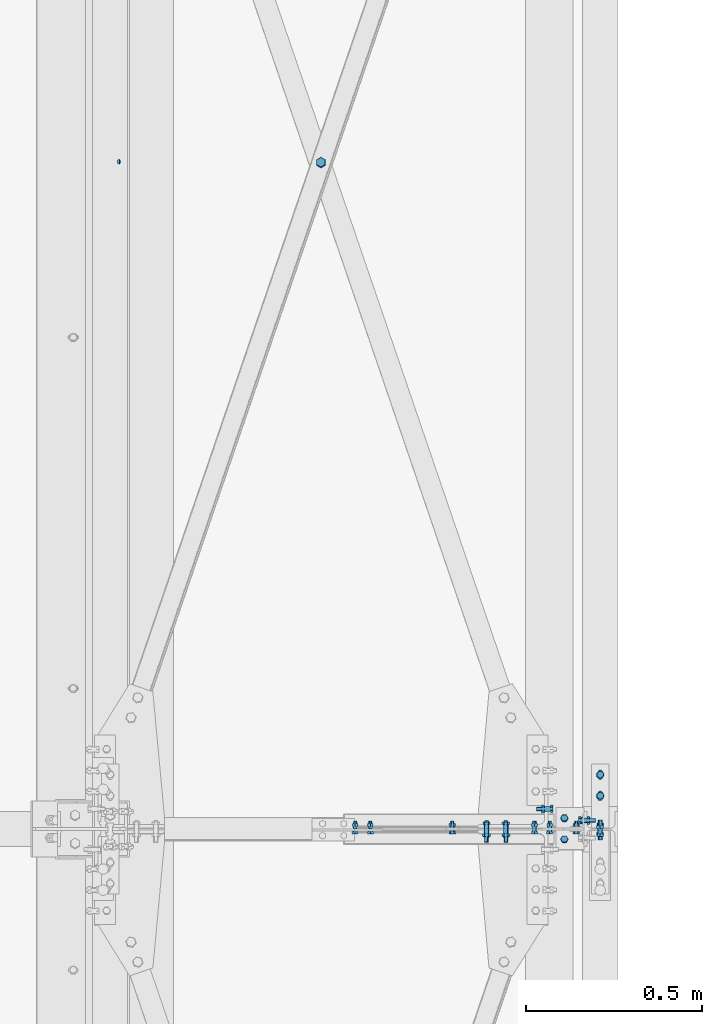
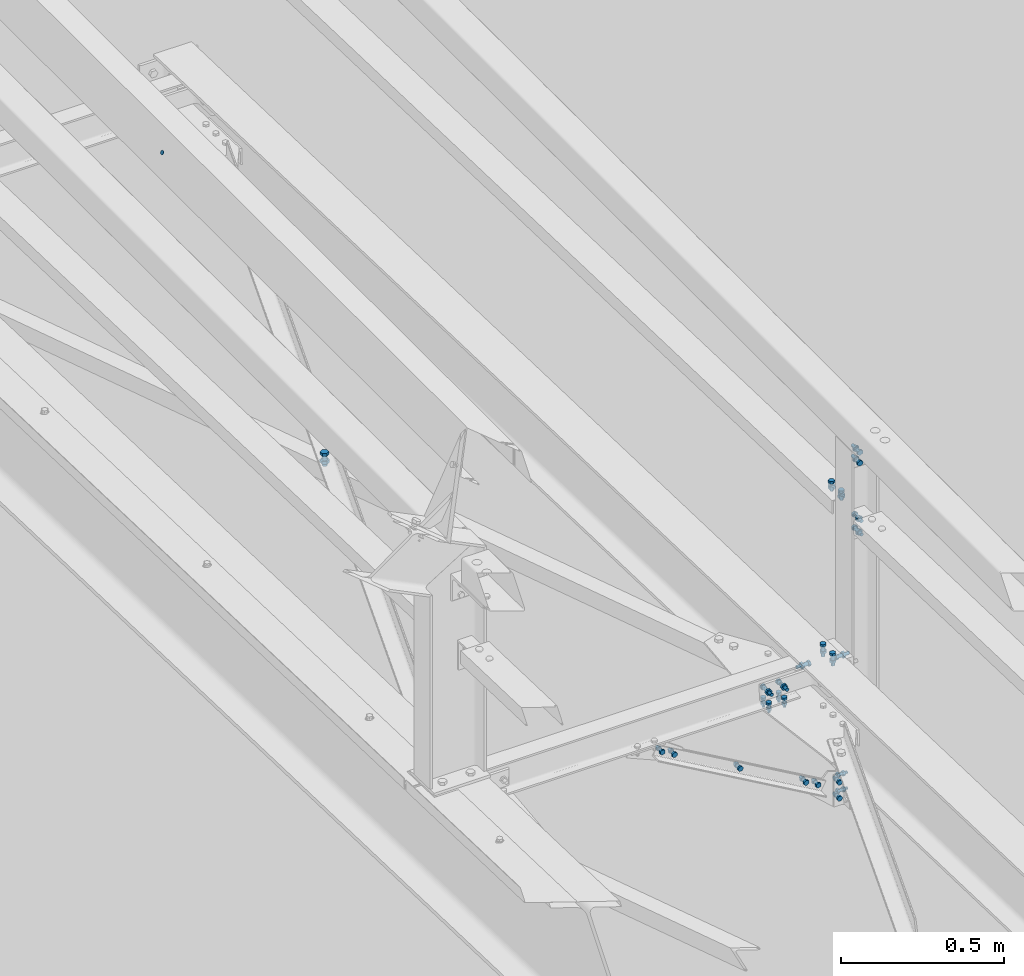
# One storey, part 335 of 362: 15 mechanical fasteners.
"""IFC2X3 building model written with IfcOpenShell, lengths in millimetres."""

from ifc_helpers import new_model, si_unit, frame, frame_2d, origin_with_axes, origin_2d_with_axis, place, context, subcontext, project, spatial, polyline, circle_curve, parameter, trimmed, segment, composite_curve, circle, outline, extrude, source, transform, mapped, material, type_object, element, save


model = new_model("IFC2X3")

# Units and contexts
model_context = context("Model", 3, precision=1e-05, world=origin_with_axes())
body_context = subcontext(model_context, "Body", "Model", "MODEL_VIEW")
ifc_project = project(units=[si_unit("LENGTHUNIT", "METRE", prefix="MILLI"), si_unit("AREAUNIT", "SQUARE_METRE"), si_unit("VOLUMEUNIT", "CUBIC_METRE"), si_unit("MASSUNIT", "GRAM", prefix="KILO"), si_unit("TIMEUNIT", "SECOND"), si_unit("PLANEANGLEUNIT", "RADIAN"), si_unit("SOLIDANGLEUNIT", "STERADIAN"), si_unit("THERMODYNAMICTEMPERATUREUNIT", "DEGREE_CELSIUS"), si_unit("LUMINOUSINTENSITYUNIT", "LUMEN")], contexts=[model_context])

# Site, building, storey
site_placement = place(None, origin_with_axes())
site = spatial("IfcSite", under=ifc_project, at=site_placement, Name="Undefined", CompositionType="ELEMENT")
building_placement = place(site_placement, origin_with_axes())
building = spatial("IfcBuilding", under=site, at=building_placement, Name="Undefined", CompositionType="ELEMENT")
storey_placement = place(building_placement, origin_with_axes())
storey = spatial("IfcBuildingStorey", under=building, at=storey_placement, Name="Undefined", CompositionType="ELEMENT", Elevation=0.0)

# Mechanical fasteners
ifc_material_1 = material(Name="6.8")
mechanical_fastener_type = type_object("IfcMechanicalFastenerType", Name="Bolt assembly")
shared_shape_1 = source(origin_with_axes(), body_context, "Body", "SweptSolid", [
    extrude(circle(Radius=7.0, at=origin_2d_with_axis()), frame((0.0, 0.0, 0.0), z_axis=(0.0, 1.0, 0.0), x_axis=(1.0, 0.0, 0.0)), (0.0, 0.0, 1.0), 3.1),
])
mechanical_fastener_1_placement = place(storey_placement, frame((38403.4787428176, 13300.0000408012, 8852.76597264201), z_axis=(0.0, -1.0, 0.0), x_axis=(-0.441220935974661, 0.0, -0.89739850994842)))
element("IfcMechanicalFastener", 1, at=mechanical_fastener_1_placement, inside=storey, type_object=mechanical_fastener_type, material=ifc_material_1, Name="Bolt assembly", NominalDiameter=12.0, NominalLength=3.0, context=body_context, shape_type="MappedRepresentation", body=[
    mapped(shared_shape_1, transform((0.0, 0.0, 0.0))),
])
shared_shape_2 = source(origin_with_axes(), body_context, "Body", "SweptSolid", [
    extrude(circle(Radius=6.0, at=origin_2d_with_axis()), frame((0.0, -6.9, 0.0), z_axis=(0.0, 1.0, 0.0), x_axis=(1.0, 0.0, 0.0)), (0.0, 0.0, 1.0), 4.0),
    extrude(circle(Radius=6.0, at=origin_2d_with_axis()), frame((0.0, 2.90000527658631, 0.0), z_axis=(0.0, 1.0, 0.0), x_axis=(1.0, 0.0, 0.0)), (0.0, 0.0, 1.0), 4.1),
    extrude(circle(Radius=6.0, at=origin_2d_with_axis()), frame((0.0, -2.99999932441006, 0.0), z_axis=(0.0, 1.0, 0.0), x_axis=(1.0, 0.0, 0.0)), (0.0, 0.0, 1.0), 6.0),
    extrude(outline(polyline([(9.81495457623, 0.0), (4.907477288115, 8.5000000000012), (-4.907477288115, 8.5000000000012), (-9.81495457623, 0.0), (-4.907477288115, -8.5000000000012), (4.907477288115, -8.5000000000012), (9.81495457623, 0.0)])), frame((0.0, -14.5000000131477, 0.0), z_axis=(0.0, 1.0, 0.0), x_axis=(1.0, 0.0, 0.0)), (0.0, 0.0, 1.0), 7.5),
    extrude(circle(Radius=5.0, at=origin_2d_with_axis()), frame((0.0, -7.0, 0.0), z_axis=(0.0, 1.0, 0.0), x_axis=(1.0, 0.0, 0.0)), (0.0, 0.0, 1.0), 30.0),
    extrude(outline(polyline([(9.23760430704, 0.0), (4.61880215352, 8.00000000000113), (-4.61880215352, 8.00000000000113), (-9.23760430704, 0.0), (-4.61880215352, -8.00000000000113), (4.61880215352, -8.00000000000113), (9.23760430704, 0.0)])), frame((0.0, 7.0, 0.0), z_axis=(0.0, 1.0, 0.0), x_axis=(1.0, 0.0, 0.0)), (0.0, 0.0, 1.0), 8.4),
])
mechanical_fastener_2_placement = place(storey_placement, frame((39354.3604524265, 11400.0003840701, 7365.22954232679), z_axis=(-0.867094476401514, 0.0, 0.498143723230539), x_axis=(0.49814372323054, 0.0, 0.867094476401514)))
element("IfcMechanicalFastener", 2, at=mechanical_fastener_2_placement, inside=storey, type_object=mechanical_fastener_type, material=ifc_material_1, Name="Bolt assembly", NominalDiameter=10.0, NominalLength=30.0, context=body_context, shape_type="MappedRepresentation", body=[
    mapped(shared_shape_2, transform((0.0, 0.0, 0.0))),
])
mechanical_fastener_3_placement = place(storey_placement, frame((39707.0000003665, 11399.9999999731, 7160.00000925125), z_axis=(0.0, 0.0, 1.0), x_axis=(1.0, 0.0, 0.0)))
element("IfcMechanicalFastener", 3, at=mechanical_fastener_3_placement, inside=storey, type_object=mechanical_fastener_type, material=ifc_material_1, Name="Bolt assembly", NominalDiameter=10.0, NominalLength=30.0, context=body_context, shape_type="MappedRepresentation", body=[
    mapped(shared_shape_2, transform((0.0, 0.0, -30.0))),
    mapped(shared_shape_2, transform((0.0, 0.0, 30.0))),
])
ifc_material_2 = material(Name="8.8-SB-ZINGUE")
shared_shape_3 = source(origin_with_axes(), body_context, "Body", "SweptSolid", [
    extrude(circle(Radius=7.0, at=origin_2d_with_axis()), frame((0.0, -2.60005959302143, 0.0), z_axis=(0.0, 1.0, 0.0), x_axis=(1.0, 0.0, 0.0)), (0.0, 0.0, 1.0), 5.1),
    extrude(circle(Radius=7.0, at=origin_2d_with_axis()), frame((0.0, -13.4001048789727, 0.0), z_axis=(0.0, 1.0, 0.0), x_axis=(1.0, 0.0, 0.0)), (0.0, 0.0, 1.0), 10.0),
    extrude(outline(polyline([(10.39230484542, 0.0), (5.19615242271, 9.00000000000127), (-5.19615242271, 9.00000000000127), (-10.39230484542, 0.0), (-5.19615242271, -9.00000000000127), (5.19615242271, -9.00000000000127), (10.39230484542, 0.0)])), frame((0.0, -21.4201048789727, 0.0), z_axis=(0.0, 1.0, 0.0), x_axis=(1.0, 0.0, 0.0)), (0.0, 0.0, 1.0), 7.92),
    extrude(circle(Radius=6.0, at=origin_2d_with_axis()), frame((0.0, -13.5000574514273, 0.0), z_axis=(0.0, 1.0, 0.0), x_axis=(1.0, 0.0, 0.0)), (0.0, 0.0, 1.0), 40.0),
    extrude(outline(polyline([(11.5008173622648, 0.0), (5.7504086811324, 9.96000000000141), (-5.7504086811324, 9.96000000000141), (-11.5008173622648, 0.0), (-5.7504086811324, -9.96000000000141), (5.7504086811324, -9.96000000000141), (11.5008173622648, 0.0)])), frame((0.0, 2.49994040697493, 0.0), z_axis=(0.0, 1.0, 0.0), x_axis=(1.0, 0.0, 0.0)), (0.0, 0.0, 1.0), 7.92),
])
mechanical_fastener_4_placement = place(storey_placement, frame((39775.0, 11400.000104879, 8370.0), z_axis=(-1.0, 0.0, 0.0), x_axis=(0.0, 0.0, 1.0)))
element("IfcMechanicalFastener", 4, at=mechanical_fastener_4_placement, inside=storey, type_object=mechanical_fastener_type, material=ifc_material_2, Name="Bolt assembly", NominalDiameter=12.0, NominalLength=40.0, context=body_context, shape_type="MappedRepresentation", body=[
    mapped(shared_shape_3, transform((0.0, 0.0, 0.0))),
    mapped(shared_shape_3, transform((40.0, 0.0, 0.0))),
])
shared_shape_4 = source(origin_with_axes(), body_context, "Body", "SweptSolid", [
    extrude(circle(Radius=7.0, at=origin_2d_with_axis()), frame((0.0, -3.88936717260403, 0.0), z_axis=(0.0, 1.0, 0.0), x_axis=(1.0, 0.0, 0.0)), (0.0, 0.0, 1.0), 4.0),
    extrude(outline(composite_curve([segment(polyline([(-7.0, 7.0), (7.0, 7.0)]), True, "CONTINUOUS"), segment(trimmed(circle_curve(frame_2d((7.0, 0.0), x_axis=(0.0, 1.0)), 7.0), [parameter(0.0)], [parameter(3.14159265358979)], False, "PARAMETER"), True, "CONTINUOUS"), segment(polyline([(7.0, -7.0), (-7.0, -7.0)]), True, "CONTINUOUS"), segment(trimmed(circle_curve(frame_2d((-7.0, 0.0), x_axis=(0.0, -1.0)), 7.0), [parameter(0.0)], [parameter(3.14159265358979)], False, "PARAMETER"), True, "DISCONTINUOUS")], self_intersect=False)), frame((0.0, -0.100011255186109, 0.0), z_axis=(0.0, 1.0, 0.0), x_axis=(1.0, 0.0, 0.0)), (0.0, 0.0, 1.0), 6.1),
    extrude(outline(polyline([(10.39230484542, 0.0), (5.19615242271, 9.00000000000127), (-5.19615242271, 9.00000000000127), (-10.39230484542, 0.0), (-5.19615242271, -9.00000000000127), (5.19615242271, -9.00000000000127), (10.39230484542, 0.0)])), frame((0.0, -11.909367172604, 0.0), z_axis=(0.0, 1.0, 0.0), x_axis=(1.0, 0.0, 0.0)), (0.0, 0.0, 1.0), 7.92),
    extrude(circle(Radius=6.0, at=origin_2d_with_axis()), frame((0.0, -3.98936717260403, 0.0), z_axis=(0.0, 1.0, 0.0), x_axis=(1.0, 0.0, 0.0)), (0.0, 0.0, 1.0), 30.0),
    extrude(circle(Radius=10.8, at=origin_2d_with_axis()), frame((0.0, 6.0, 0.0), z_axis=(0.0, 1.0, 0.0), x_axis=(1.0, 0.0, 0.0)), (0.0, 0.0, 1.0), 3.96),
    extrude(outline(polyline([(11.5008173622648, 0.0), (5.7504086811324, 9.96000000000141), (-5.7504086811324, 9.96000000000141), (-11.5008173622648, 0.0), (-5.7504086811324, -9.96000000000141), (5.7504086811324, -9.96000000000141), (11.5008173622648, 0.0)])), frame((0.0, 9.9600084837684, 0.0), z_axis=(0.0, 1.0, 0.0), x_axis=(1.0, 0.0, 0.0)), (0.0, 0.0, 1.0), 7.92),
])
mechanical_fastener_5_placement = place(storey_placement, frame((39775.0, 11554.9555719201, 8188.12886622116), z_axis=(1.0, 0.0, 0.0), x_axis=(0.0, -0.999506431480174, 0.0314148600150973)))
element("IfcMechanicalFastener", 5, at=mechanical_fastener_5_placement, inside=storey, type_object=mechanical_fastener_type, material=ifc_material_2, Name="Bolt assembly", NominalDiameter=12.0, NominalLength=30.0, context=body_context, shape_type="MappedRepresentation", body=[
    mapped(shared_shape_4, transform((0.0, 0.0, 0.0))),
    mapped(shared_shape_4, transform((60.0, 0.0, 0.0))),
])
shared_shape_5 = source(origin_with_axes(), body_context, "Body", "SweptSolid", [
    extrude(circle(Radius=7.0, at=origin_2d_with_axis()), frame((0.0, -2.5, 0.0), z_axis=(0.0, 1.0, 0.0), x_axis=(1.0, 0.0, 0.0)), (0.0, 0.0, 1.0), 5.0),
    extrude(circle(Radius=7.0, at=origin_2d_with_axis()), frame((0.0, 3.40000111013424, 0.0), z_axis=(0.0, 1.0, 0.0), x_axis=(1.0, 0.0, 0.0)), (0.0, 0.0, 1.0), 6.1),
    extrude(circle(Radius=7.0, at=origin_2d_with_axis()), frame((0.0, -9.40000000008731, 0.0), z_axis=(0.0, 1.0, 0.0), x_axis=(1.0, 0.0, 0.0)), (0.0, 0.0, 1.0), 6.0),
    extrude(outline(polyline([(10.39230484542, 0.0), (5.19615242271, 9.00000000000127), (-5.19615242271, 9.00000000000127), (-10.39230484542, 0.0), (-5.19615242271, -9.00000000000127), (5.19615242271, -9.00000000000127), (10.39230484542, 0.0)])), frame((0.0, -17.4200000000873, 0.0), z_axis=(0.0, 1.0, 0.0), x_axis=(1.0, 0.0, 0.0)), (0.0, 0.0, 1.0), 7.92),
    extrude(circle(Radius=6.0, at=origin_2d_with_axis()), frame((0.0, -9.50000000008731, 0.0), z_axis=(0.0, 1.0, 0.0), x_axis=(1.0, 0.0, 0.0)), (0.0, 0.0, 1.0), 40.0),
    extrude(outline(polyline([(11.5008173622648, 0.0), (5.7504086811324, 9.96000000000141), (-5.7504086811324, 9.96000000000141), (-11.5008173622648, 0.0), (-5.7504086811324, -9.96000000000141), (5.7504086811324, -9.96000000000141), (11.5008173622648, 0.0)])), frame((0.0, 9.50000815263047, 0.0), z_axis=(0.0, 1.0, 0.0), x_axis=(1.0, 0.0, 0.0)), (0.0, 0.0, 1.0), 7.92),
])
mechanical_fastener_6_placement = place(storey_placement, frame((39775.0000000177, 11400.0, 8107.99910819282), z_axis=(1.0, 0.0, 0.0), x_axis=(0.0, 0.0, 1.0)))
element("IfcMechanicalFastener", 6, at=mechanical_fastener_6_placement, inside=storey, type_object=mechanical_fastener_type, material=ifc_material_2, Name="Bolt assembly", NominalDiameter=12.0, NominalLength=40.0, context=body_context, shape_type="MappedRepresentation", body=[
    mapped(shared_shape_5, transform((0.0, 0.0, 0.0))),
    mapped(shared_shape_5, transform((49.9999999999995, 0.0, -3.63797880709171e-12))),
])
shared_shape_6 = source(origin_with_axes(), body_context, "Body", "SweptSolid", [
    extrude(circle(Radius=6.0, at=origin_2d_with_axis()), frame((0.0, 2.90038411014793, 0.0), z_axis=(0.0, 1.0, 0.0), x_axis=(1.0, 0.0, 0.0)), (0.0, 0.0, 1.0), 4.1),
    extrude(circle(Radius=6.0, at=origin_2d_with_axis()), frame((0.0, -6.89961591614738, 0.0), z_axis=(0.0, 1.0, 0.0), x_axis=(1.0, 0.0, 0.0)), (0.0, 0.0, 1.0), 4.0),
    extrude(circle(Radius=6.0, at=origin_2d_with_axis()), frame((0.0, -4.88000000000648, 0.0), z_axis=(0.0, 1.0, 0.0), x_axis=(1.0, 0.0, 0.0)), (0.0, 0.0, 1.0), 6.0),
    extrude(outline(polyline([(9.81495457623, 0.0), (4.907477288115, 8.5000000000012), (-4.907477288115, 8.5000000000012), (-9.81495457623, 0.0), (-4.907477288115, -8.5000000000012), (4.907477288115, -8.5000000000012), (9.81495457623, 0.0)])), frame((0.0, -14.4996159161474, 0.0), z_axis=(0.0, 1.0, 0.0), x_axis=(1.0, 0.0, 0.0)), (0.0, 0.0, 1.0), 7.5),
    extrude(circle(Radius=5.0, at=origin_2d_with_axis()), frame((0.0, -6.99961591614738, 0.0), z_axis=(0.0, 1.0, 0.0), x_axis=(1.0, 0.0, 0.0)), (0.0, 0.0, 1.0), 30.0),
    extrude(outline(polyline([(9.23760430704, 0.0), (4.61880215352, 8.00000000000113), (-4.61880215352, 8.00000000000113), (-9.23760430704, 0.0), (-4.61880215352, -8.00000000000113), (4.61880215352, -8.00000000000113), (9.23760430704, 0.0)])), frame((0.0, 7.00036854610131, 0.0), z_axis=(0.0, 1.0, 0.0), x_axis=(1.0, 0.0, 0.0)), (0.0, 0.0, 1.0), 8.4),
])
mechanical_fastener_7_placement = place(storey_placement, frame((39077.3739751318, 11399.9999999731, 7524.35761739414), z_axis=(0.49814372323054, 0.0, 0.867094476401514), x_axis=(0.867094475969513, 0.0, -0.498143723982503)))
element("IfcMechanicalFastener", 7, at=mechanical_fastener_7_placement, inside=storey, type_object=mechanical_fastener_type, material=ifc_material_1, Name="Bolt assembly", NominalDiameter=10.0, NominalLength=30.0, context=body_context, shape_type="MappedRepresentation", body=[
    mapped(shared_shape_6, transform((0.0, 0.0, 0.0))),
    mapped(shared_shape_6, transform((49.9999999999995, 0.0, -3.63797880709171e-12))),
])
shared_shape_7 = source(origin_with_axes(), body_context, "Body", "SweptSolid", [
    extrude(circle(Radius=6.0, at=origin_2d_with_axis()), frame((0.0, -6.89961591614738, 0.0), z_axis=(0.0, 1.0, 0.0), x_axis=(1.0, 0.0, 0.0)), (0.0, 0.0, 1.0), 4.0),
    extrude(circle(Radius=6.0, at=origin_2d_with_axis()), frame((0.0, 2.90038411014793, 0.0), z_axis=(0.0, 1.0, 0.0), x_axis=(1.0, 0.0, 0.0)), (0.0, 0.0, 1.0), 4.1),
    extrude(circle(Radius=6.0, at=origin_2d_with_axis()), frame((0.0, -2.99999932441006, 0.0), z_axis=(0.0, 1.0, 0.0), x_axis=(1.0, 0.0, 0.0)), (0.0, 0.0, 1.0), 6.0),
    extrude(outline(polyline([(9.81495457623, 0.0), (4.907477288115, 8.5000000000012), (-4.907477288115, 8.5000000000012), (-9.81495457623, 0.0), (-4.907477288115, -8.5000000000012), (4.907477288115, -8.5000000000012), (9.81495457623, 0.0)])), frame((0.0, -14.4996159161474, 0.0), z_axis=(0.0, 1.0, 0.0), x_axis=(1.0, 0.0, 0.0)), (0.0, 0.0, 1.0), 7.5),
    extrude(circle(Radius=5.0, at=origin_2d_with_axis()), frame((0.0, -6.99961591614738, 0.0), z_axis=(0.0, 1.0, 0.0), x_axis=(1.0, 0.0, 0.0)), (0.0, 0.0, 1.0), 30.0),
    extrude(outline(polyline([(9.23760430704, 0.0), (4.61880215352, 8.00000000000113), (-4.61880215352, 8.00000000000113), (-9.23760430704, 0.0), (-4.61880215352, -8.00000000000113), (4.61880215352, -8.00000000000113), (9.23760430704, 0.0)])), frame((0.0, 7.00036854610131, 0.0), z_axis=(0.0, 1.0, 0.0), x_axis=(1.0, 0.0, 0.0)), (0.0, 0.0, 1.0), 8.4),
])
mechanical_fastener_8_placement = place(storey_placement, frame((39631.3469296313, 11399.9999999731, 7206.10146710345), z_axis=(-0.498143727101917, 0.0, -0.867094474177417), x_axis=(-0.867094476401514, 0.0, 0.498143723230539)))
element("IfcMechanicalFastener", 8, at=mechanical_fastener_8_placement, inside=storey, type_object=mechanical_fastener_type, material=ifc_material_1, Name="Bolt assembly", NominalDiameter=10.0, NominalLength=30.0, context=body_context, shape_type="MappedRepresentation", body=[
    mapped(shared_shape_7, transform((0.0, 0.0, 0.0))),
    mapped(shared_shape_7, transform((49.9999999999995, 0.0, -3.63797880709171e-12))),
])
shared_shape_8 = source(origin_with_axes(), body_context, "Body", "SweptSolid", [
    extrude(circle(Radius=6.0, at=origin_2d_with_axis()), frame((0.0, -0.100011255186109, 0.0), z_axis=(0.0, 1.0, 0.0), x_axis=(1.0, 0.0, 0.0)), (0.0, 0.0, 1.0), 8.1),
    extrude(circle(Radius=6.0, at=origin_2d_with_axis()), frame((0.0, -3.89999843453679, 0.0), z_axis=(0.0, 1.0, 0.0), x_axis=(1.0, 0.0, 0.0)), (0.0, 0.0, 1.0), 4.0),
    extrude(outline(polyline([(9.81495457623, 0.0), (4.907477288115, 8.5000000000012), (-4.907477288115, 8.5000000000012), (-9.81495457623, 0.0), (-4.907477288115, -8.5000000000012), (4.907477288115, -8.5000000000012), (9.81495457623, 0.0)])), frame((0.0, -11.5, 0.0), z_axis=(0.0, 1.0, 0.0), x_axis=(1.0, 0.0, 0.0)), (0.0, 0.0, 1.0), 7.5),
    extrude(circle(Radius=5.0, at=origin_2d_with_axis()), frame((0.0, -3.99999923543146, 0.0), z_axis=(0.0, 1.0, 0.0), x_axis=(1.0, 0.0, 0.0)), (0.0, 0.0, 1.0), 30.0),
    extrude(outline(polyline([(9.23760430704, 0.0), (4.61880215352, 8.00000000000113), (-4.61880215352, 8.00000000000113), (-9.23760430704, 0.0), (-4.61880215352, -8.00000000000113), (4.61880215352, -8.00000000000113), (9.23760430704, 0.0)])), frame((0.0, 8.00000527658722, 0.0), z_axis=(0.0, 1.0, 0.0), x_axis=(1.0, 0.0, 0.0)), (0.0, 0.0, 1.0), 8.4),
])
mechanical_fastener_9_placement = place(storey_placement, frame((39729.0000003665, 11424.9999999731, 7160.00000925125), z_axis=(0.0, 0.0, 1.0), x_axis=(0.0, -1.0, 0.0)))
element("IfcMechanicalFastener", 9, at=mechanical_fastener_9_placement, inside=storey, type_object=mechanical_fastener_type, material=ifc_material_1, Name="Bolt assembly", NominalDiameter=10.0, NominalLength=30.0, context=body_context, shape_type="MappedRepresentation", body=[
    mapped(shared_shape_8, transform((0.0, 0.0, -30.0))),
    mapped(shared_shape_8, transform((0.0, 0.0, 30.0))),
])
ifc_material_3 = material(Name="#_SB-8.8-ZINGUE")
shared_shape_9 = source(origin_with_axes(), body_context, "Body", "SweptSolid", [
    extrude(circle(Radius=7.0, at=origin_2d_with_axis()), frame((0.0, -10.0999860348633, 0.0), z_axis=(0.0, 1.0, 0.0), x_axis=(1.0, 0.0, 0.0)), (0.0, 0.0, 1.0), 10.2),
    extrude(circle(Radius=7.0, at=origin_2d_with_axis()), frame((0.0, -0.100011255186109, 0.0), z_axis=(0.0, 1.0, 0.0), x_axis=(1.0, 0.0, 0.0)), (0.0, 0.0, 1.0), 8.1),
    extrude(outline(polyline([(10.39230484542, 0.0), (5.19615242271, 9.00000000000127), (-5.19615242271, 9.00000000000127), (-10.39230484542, 0.0), (-5.19615242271, -9.00000000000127), (5.19615242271, -9.00000000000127), (10.39230484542, 0.0)])), frame((0.0, -18.1199860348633, 0.0), z_axis=(0.0, 1.0, 0.0), x_axis=(1.0, 0.0, 0.0)), (0.0, 0.0, 1.0), 7.92),
    extrude(circle(Radius=6.0, at=origin_2d_with_axis()), frame((0.0, -10.1999860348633, 0.0), z_axis=(0.0, 1.0, 0.0), x_axis=(1.0, 0.0, 0.0)), (0.0, 0.0, 1.0), 40.0),
    extrude(outline(polyline([(11.5008173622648, 0.0), (5.7504086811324, 9.96000000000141), (-5.7504086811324, 9.96000000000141), (-11.5008173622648, 0.0), (-5.7504086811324, -9.96000000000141), (5.7504086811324, -9.96000000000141), (11.5008173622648, 0.0)])), frame((0.0, 8.00000527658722, 0.0), z_axis=(0.0, 1.0, 0.0), x_axis=(1.0, 0.0, 0.0)), (0.0, 0.0, 1.0), 7.92),
])
mechanical_fastener_10_placement = place(storey_placement, frame((39673.0, 11401.4134841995, 7681.49111195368), z_axis=(3.14103090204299e-11, 0.999506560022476, -0.0314107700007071), x_axis=(1.0, 0.0, 0.0)))
element("IfcMechanicalFastener", 10, at=mechanical_fastener_10_placement, inside=storey, type_object=mechanical_fastener_type, material=ifc_material_3, Name="Bolt assembly", NominalDiameter=12.0, NominalLength=40.0, context=body_context, shape_type="MappedRepresentation", body=[
    mapped(shared_shape_9, transform((0.0, 0.0, -30.0))),
    mapped(shared_shape_9, transform((0.0, 0.0, 30.0))),
])
shared_shape_10 = source(origin_with_axes(), body_context, "Body", "SweptSolid", [
    extrude(circle(Radius=7.0, at=origin_2d_with_axis()), frame((0.0, -0.100011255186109, 0.0), z_axis=(0.0, 1.0, 0.0), x_axis=(1.0, 0.0, 0.0)), (0.0, 0.0, 1.0), 8.1),
    extrude(circle(Radius=7.0, at=origin_2d_with_axis()), frame((0.0, -7.9, 0.0), z_axis=(0.0, 1.0, 0.0), x_axis=(1.0, 0.0, 0.0)), (0.0, 0.0, 1.0), 8.0),
    extrude(outline(polyline([(10.39230484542, 0.0), (5.19615242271, 9.00000000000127), (-5.19615242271, 9.00000000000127), (-10.39230484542, 0.0), (-5.19615242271, -9.00000000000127), (5.19615242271, -9.00000000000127), (10.39230484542, 0.0)])), frame((0.0, -15.92, 0.0), z_axis=(0.0, 1.0, 0.0), x_axis=(1.0, 0.0, 0.0)), (0.0, 0.0, 1.0), 7.92),
    extrude(circle(Radius=6.0, at=origin_2d_with_axis()), frame((0.0, -8.0, 0.0), z_axis=(0.0, 1.0, 0.0), x_axis=(1.0, 0.0, 0.0)), (0.0, 0.0, 1.0), 40.0),
    extrude(outline(polyline([(11.5008173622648, 0.0), (5.7504086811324, 9.96000000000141), (-5.7504086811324, 9.96000000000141), (-11.5008173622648, 0.0), (-5.7504086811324, -9.96000000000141), (5.7504086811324, -9.96000000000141), (11.5008173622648, 0.0)])), frame((0.0, 8.00000527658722, 0.0), z_axis=(0.0, 1.0, 0.0), x_axis=(1.0, 0.0, 0.0)), (0.0, 0.0, 1.0), 7.92),
])
mechanical_fastener_11_placement = place(storey_placement, frame((39729.0, 11425.0000000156, 7635.72766008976), z_axis=(-1.05403257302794e-09, -0.0314112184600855, -0.999506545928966), x_axis=(3.14103090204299e-11, 0.999506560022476, -0.0314107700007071)))
element("IfcMechanicalFastener", 11, at=mechanical_fastener_11_placement, inside=storey, type_object=mechanical_fastener_type, material=ifc_material_3, Name="Bolt assembly", NominalDiameter=12.0, NominalLength=40.0, context=body_context, shape_type="MappedRepresentation", body=[
    mapped(shared_shape_10, transform((0.0, 0.0, 0.0))),
])
shared_shape_11 = source(origin_with_axes(), body_context, "Body", "SweptSolid", [
    extrude(circle(Radius=9.0, at=origin_2d_with_axis()), frame((0.0, 2.90112971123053, 0.0), z_axis=(0.0, 1.0, 0.0), x_axis=(1.0, 0.0, 0.0)), (0.0, 0.0, 1.0), 6.1),
    extrude(circle(Radius=9.0, at=origin_2d_with_axis()), frame((0.0, -8.89881504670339, 0.0), z_axis=(0.0, 1.0, 0.0), x_axis=(1.0, 0.0, 0.0)), (0.0, 0.0, 1.0), 6.0),
    extrude(outline(polyline([(13.85640646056, 0.0), (6.92820323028, 12.0000000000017), (-6.92820323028, 12.0000000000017), (-13.85640646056, 0.0), (-6.92820323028, -12.0000000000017), (6.92820323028, -12.0000000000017), (13.85640646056, 0.0)])), frame((0.0, -19.5588150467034, 0.0), z_axis=(0.0, 1.0, 0.0), x_axis=(1.0, 0.0, 0.0)), (0.0, 0.0, 1.0), 10.56),
    extrude(circle(Radius=8.0, at=origin_2d_with_axis()), frame((0.0, -8.99881504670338, 0.0), z_axis=(0.0, 1.0, 0.0), x_axis=(1.0, 0.0, 0.0)), (0.0, 0.0, 1.0), 40.0),
    extrude(outline(polyline([(15.3344231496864, 0.0), (7.6672115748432, 13.2800000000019), (-7.6672115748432, 13.2800000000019), (-15.3344231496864, 0.0), (-7.6672115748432, -13.2800000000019), (7.6672115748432, -13.2800000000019), (15.3344231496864, 0.0)])), frame((0.0, 9.00112971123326, 0.0), z_axis=(0.0, 1.0, 0.0), x_axis=(1.0, 0.0, 0.0)), (0.0, 0.0, 1.0), 10.56),
])
mechanical_fastener_12_placement = place(storey_placement, frame((38980.0000151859, 13298.020066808, 7509.03216005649), z_axis=(-1.0, 0.0, 0.0), x_axis=(3.14103090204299e-11, 0.999506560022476, -0.0314107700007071)))
element("IfcMechanicalFastener", 12, at=mechanical_fastener_12_placement, inside=storey, type_object=mechanical_fastener_type, material=ifc_material_2, Name="Bolt assembly", NominalDiameter=16.0, NominalLength=40.0, context=body_context, shape_type="MappedRepresentation", body=[
    mapped(shared_shape_11, transform((0.0, 0.0, 0.0))),
])
shared_shape_12 = source(origin_with_axes(), body_context, "Body", "SweptSolid", [
    extrude(circle(Radius=6.0, at=origin_2d_with_axis()), frame((0.0, -6.19999893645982, 0.0), z_axis=(0.0, 1.0, 0.0), x_axis=(1.0, 0.0, 0.0)), (0.0, 0.0, 1.0), 6.3),
    extrude(circle(Radius=6.0, at=origin_2d_with_axis()), frame((0.0, -0.10007666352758, 0.0), z_axis=(0.0, 1.0, 0.0), x_axis=(1.0, 0.0, 0.0)), (0.0, 0.0, 1.0), 6.1),
    extrude(outline(polyline([(9.81495457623, 0.0), (4.907477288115, 8.5000000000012), (-4.907477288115, 8.5000000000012), (-9.81495457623, 0.0), (-4.907477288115, -8.5000000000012), (4.907477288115, -8.5000000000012), (9.81495457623, 0.0)])), frame((0.0, -13.7999989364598, 0.0), z_axis=(0.0, 1.0, 0.0), x_axis=(1.0, 0.0, 0.0)), (0.0, 0.0, 1.0), 7.5),
    extrude(circle(Radius=5.0, at=origin_2d_with_axis()), frame((0.0, -6.29999893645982, 0.0), z_axis=(0.0, 1.0, 0.0), x_axis=(1.0, 0.0, 0.0)), (0.0, 0.0, 1.0), 30.0),
    extrude(outline(polyline([(9.23760430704, 0.0), (4.61880215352, 8.00000000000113), (-4.61880215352, 8.00000000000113), (-9.23760430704, 0.0), (-4.61880215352, -8.00000000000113), (4.61880215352, -8.00000000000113), (9.23760430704, 0.0)])), frame((0.0, 6.0, 0.0), z_axis=(0.0, 1.0, 0.0), x_axis=(1.0, 0.0, 0.0)), (0.0, 0.0, 1.0), 8.4),
])
mechanical_fastener_13_placement = place(storey_placement, frame((39451.5000116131, 11398.1157730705, 7571.74048553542), z_axis=(3.14103090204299e-11, 0.999506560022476, -0.0314107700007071), x_axis=(1.0, 0.0, 0.0)))
element("IfcMechanicalFastener", 13, at=mechanical_fastener_13_placement, inside=storey, type_object=mechanical_fastener_type, material=ifc_material_1, Name="Bolt assembly", NominalDiameter=10.0, NominalLength=30.0, context=body_context, shape_type="MappedRepresentation", body=[
    mapped(shared_shape_12, transform((0.0, 3.18323145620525e-11, -16.9999999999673))),
    mapped(shared_shape_12, transform((55.0, 8.18545231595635e-12, -16.9999999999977))),
    mapped(shared_shape_12, transform((0.0, -3.18323145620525e-11, 16.9999999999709))),
    mapped(shared_shape_12, transform((55.0, -7.27595761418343e-12, 16.9999999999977))),
])
shared_shape_13 = source(origin_with_axes(), body_context, "Body", "SweptSolid", [
    extrude(circle(Radius=7.0, at=origin_2d_with_axis()), frame((0.0, -1.69999995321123, 0.0), z_axis=(0.0, 1.0, 0.0), x_axis=(1.0, 0.0, 0.0)), (0.0, 0.0, 1.0), 6.6),
    extrude(circle(Radius=7.0, at=origin_2d_with_axis()), frame((0.0, 4.9000000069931, 0.0), z_axis=(0.0, 1.0, 0.0), x_axis=(1.0, 0.0, 0.0)), (0.0, 0.0, 1.0), 10.1),
    extrude(outline(polyline([(10.39230484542, 0.0), (5.19615242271, 9.00000000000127), (-5.19615242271, 9.00000000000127), (-10.39230484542, 0.0), (-5.19615242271, -9.00000000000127), (5.19615242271, -9.00000000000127), (10.39230484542, 0.0)])), frame((0.0, -9.71999995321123, 0.0), z_axis=(0.0, 1.0, 0.0), x_axis=(1.0, 0.0, 0.0)), (0.0, 0.0, 1.0), 7.92),
    extrude(circle(Radius=6.0, at=origin_2d_with_axis()), frame((0.0, -1.79999995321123, 0.0), z_axis=(0.0, 1.0, 0.0), x_axis=(1.0, 0.0, 0.0)), (0.0, 0.0, 1.0), 40.0),
    extrude(outline(polyline([(11.5008173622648, 0.0), (5.7504086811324, 9.96000000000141), (-5.7504086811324, 9.96000000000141), (-11.5008173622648, 0.0), (-5.7504086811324, -9.96000000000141), (5.7504086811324, -9.96000000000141), (11.5008173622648, 0.0)])), frame((0.0, 15.0000000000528, 0.0), z_axis=(0.0, 1.0, 0.0), x_axis=(1.0, 0.0, 0.0)), (0.0, 0.0, 1.0), 7.92),
])
mechanical_fastener_14_placement = place(storey_placement, frame((39631.5, 11457.6581217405, 7619.89395022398), z_axis=(-1.05403257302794e-09, -0.0314112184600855, -0.999506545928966), x_axis=(0.0, -0.999506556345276, 0.031410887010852)))
element("IfcMechanicalFastener", 14, at=mechanical_fastener_14_placement, inside=storey, type_object=mechanical_fastener_type, material=ifc_material_2, Name="Bolt assembly", NominalDiameter=12.0, NominalLength=40.0, context=body_context, shape_type="MappedRepresentation", body=[
    mapped(shared_shape_13, transform((0.0, 0.0, 0.0))),
])
shared_shape_14 = source(origin_with_axes(), body_context, "Body", "SweptSolid", [
    extrude(circle(Radius=7.0, at=origin_2d_with_axis()), frame((0.0, -2.20000854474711, 0.0), z_axis=(0.0, 1.0, 0.0), x_axis=(1.0, 0.0, 0.0)), (0.0, 0.0, 1.0), 4.4),
    extrude(circle(Radius=7.0, at=origin_2d_with_axis()), frame((0.0, 2.90000527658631, 0.0), z_axis=(0.0, 1.0, 0.0), x_axis=(1.0, 0.0, 0.0)), (0.0, 0.0, 1.0), 10.1),
    extrude(circle(Radius=7.0, at=origin_2d_with_axis()), frame((0.0, -12.9008585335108, 0.0), z_axis=(0.0, 1.0, 0.0), x_axis=(1.0, 0.0, 0.0)), (0.0, 0.0, 1.0), 10.0),
    extrude(outline(polyline([(10.39230484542, 0.0), (5.19615242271, 9.00000000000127), (-5.19615242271, 9.00000000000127), (-10.39230484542, 0.0), (-5.19615242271, -9.00000000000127), (5.19615242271, -9.00000000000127), (10.39230484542, 0.0)])), frame((0.0, -20.9208585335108, 0.0), z_axis=(0.0, 1.0, 0.0), x_axis=(1.0, 0.0, 0.0)), (0.0, 0.0, 1.0), 7.92),
    extrude(circle(Radius=6.0, at=origin_2d_with_axis()), frame((0.0, -13.0008585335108, 0.0), z_axis=(0.0, 1.0, 0.0), x_axis=(1.0, 0.0, 0.0)), (0.0, 0.0, 1.0), 50.0),
    extrude(outline(polyline([(11.5008173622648, 0.0), (5.7504086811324, 9.96000000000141), (-5.7504086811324, 9.96000000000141), (-11.5008173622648, 0.0), (-5.7504086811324, -9.96000000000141), (5.7504086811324, -9.96000000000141), (11.5008173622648, 0.0)])), frame((0.0, 13.0000006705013, 0.0), z_axis=(0.0, 1.0, 0.0), x_axis=(1.0, 0.0, 0.0)), (0.0, 0.0, 1.0), 7.92),
])
mechanical_fastener_15_placement = place(storey_placement, frame((39451.5, 11399.685884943, 7621.71585892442), z_axis=(-1.05403257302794e-09, -0.0314112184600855, -0.999506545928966), x_axis=(1.0, 0.0, 0.0)))
element("IfcMechanicalFastener", 15, at=mechanical_fastener_15_placement, inside=storey, type_object=mechanical_fastener_type, material=ifc_material_2, Name="Bolt assembly", NominalDiameter=12.0, NominalLength=50.0, context=body_context, shape_type="MappedRepresentation", body=[
    mapped(shared_shape_14, transform((0.0, 0.0, 0.0))),
    mapped(shared_shape_14, transform((55.0000000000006, -1.81898940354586e-10, 0.0))),
])

save(model, "model.ifc")
